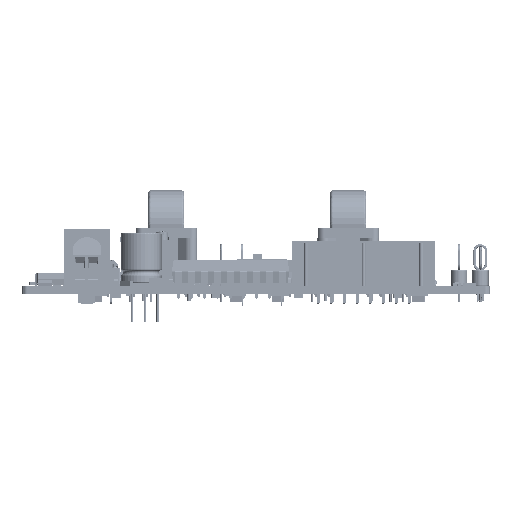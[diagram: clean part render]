
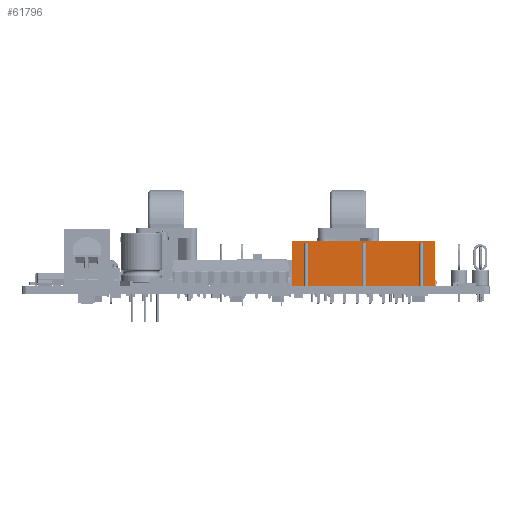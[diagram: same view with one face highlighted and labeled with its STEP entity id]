
A CAD part, left-side view. The second image highlights one B-rep face of the part: STEP entity #61796.
In plain terms, the highlighted planar face has unit normal (-1, 0, 0) as drawn and (0, 1, 0) by its records, which use the part's own axes.
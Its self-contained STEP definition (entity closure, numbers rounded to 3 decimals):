
#61759 = VERTEX_POINT('',#61760);
#61760 = CARTESIAN_POINT('',(-9.29,5.47,6.13));
#61778 = VERTEX_POINT('',#61779);
#61779 = CARTESIAN_POINT('',(-9.29,5.47,-2.27));
#61786 = EDGE_CURVE('',#61759,#61778,#61787,.T.);
#61787 = LINE('',#61788,#61789);
#61788 = CARTESIAN_POINT('',(-9.29,5.47,-2.27));
#61789 = VECTOR('',#61790,1.);
#61790 = DIRECTION('',(0.,0.,-1.));
#61796 = ADVANCED_FACE('',(#61797),#61918,.T.);
#61797 = FACE_BOUND('',#61798,.T.);
#61798 = EDGE_LOOP('',(#61799,#61800,#61808,#61816,#61824,#61832,#61840,
    #61848,#61856,#61864,#61872,#61880,#61888,#61896,#61904,#61912));
#61799 = ORIENTED_EDGE('',*,*,#61786,.T.);
#61800 = ORIENTED_EDGE('',*,*,#61801,.T.);
#61801 = EDGE_CURVE('',#61778,#61802,#61804,.T.);
#61802 = VERTEX_POINT('',#61803);
#61803 = CARTESIAN_POINT('',(-19.75,5.47,-2.27));
#61804 = LINE('',#61805,#61806);
#61805 = CARTESIAN_POINT('',(-22.85,5.47,-2.27));
#61806 = VECTOR('',#61807,1.);
#61807 = DIRECTION('',(-1.,0.,0.));
#61808 = ORIENTED_EDGE('',*,*,#61809,.T.);
#61809 = EDGE_CURVE('',#61802,#61810,#61812,.T.);
#61810 = VERTEX_POINT('',#61811);
#61811 = CARTESIAN_POINT('',(-19.75,5.47,6.13));
#61812 = LINE('',#61813,#61814);
#61813 = CARTESIAN_POINT('',(-19.75,5.47,-2.27));
#61814 = VECTOR('',#61815,1.);
#61815 = DIRECTION('',(0.,0.,1.));
#61816 = ORIENTED_EDGE('',*,*,#61817,.T.);
#61817 = EDGE_CURVE('',#61810,#61818,#61820,.T.);
#61818 = VERTEX_POINT('',#61819);
#61819 = CARTESIAN_POINT('',(-20.55,5.47,6.13));
#61820 = LINE('',#61821,#61822);
#61821 = CARTESIAN_POINT('',(-22.85,5.47,6.13));
#61822 = VECTOR('',#61823,1.);
#61823 = DIRECTION('',(-1.,0.,0.));
#61824 = ORIENTED_EDGE('',*,*,#61825,.T.);
#61825 = EDGE_CURVE('',#61818,#61826,#61828,.T.);
#61826 = VERTEX_POINT('',#61827);
#61827 = CARTESIAN_POINT('',(-20.55,5.47,-2.27));
#61828 = LINE('',#61829,#61830);
#61829 = CARTESIAN_POINT('',(-20.55,5.47,-2.27));
#61830 = VECTOR('',#61831,1.);
#61831 = DIRECTION('',(0.,0.,-1.));
#61832 = ORIENTED_EDGE('',*,*,#61833,.T.);
#61833 = EDGE_CURVE('',#61826,#61834,#61836,.T.);
#61834 = VERTEX_POINT('',#61835);
#61835 = CARTESIAN_POINT('',(-22.85,5.47,-2.27));
#61836 = LINE('',#61837,#61838);
#61837 = CARTESIAN_POINT('',(-22.85,5.47,-2.27));
#61838 = VECTOR('',#61839,1.);
#61839 = DIRECTION('',(-1.,0.,0.));
#61840 = ORIENTED_EDGE('',*,*,#61841,.T.);
#61841 = EDGE_CURVE('',#61834,#61842,#61844,.T.);
#61842 = VERTEX_POINT('',#61843);
#61843 = CARTESIAN_POINT('',(-22.85,5.47,6.63));
#61844 = LINE('',#61845,#61846);
#61845 = CARTESIAN_POINT('',(-22.85,5.47,-2.27));
#61846 = VECTOR('',#61847,1.);
#61847 = DIRECTION('',(0.,0.,1.));
#61848 = ORIENTED_EDGE('',*,*,#61849,.T.);
#61849 = EDGE_CURVE('',#61842,#61850,#61852,.T.);
#61850 = VERTEX_POINT('',#61851);
#61851 = CARTESIAN_POINT('',(5.07,5.47,6.63));
#61852 = LINE('',#61853,#61854);
#61853 = CARTESIAN_POINT('',(-22.85,5.47,6.63));
#61854 = VECTOR('',#61855,1.);
#61855 = DIRECTION('',(1.,0.,0.));
#61856 = ORIENTED_EDGE('',*,*,#61857,.T.);
#61857 = EDGE_CURVE('',#61850,#61858,#61860,.T.);
#61858 = VERTEX_POINT('',#61859);
#61859 = CARTESIAN_POINT('',(5.07,5.47,-2.27));
#61860 = LINE('',#61861,#61862);
#61861 = CARTESIAN_POINT('',(5.07,5.47,-2.27));
#61862 = VECTOR('',#61863,1.);
#61863 = DIRECTION('',(0.,0.,-1.));
#61864 = ORIENTED_EDGE('',*,*,#61865,.T.);
#61865 = EDGE_CURVE('',#61858,#61866,#61868,.T.);
#61866 = VERTEX_POINT('',#61867);
#61867 = CARTESIAN_POINT('',(2.77,5.47,-2.27));
#61868 = LINE('',#61869,#61870);
#61869 = CARTESIAN_POINT('',(-22.85,5.47,-2.27));
#61870 = VECTOR('',#61871,1.);
#61871 = DIRECTION('',(-1.,0.,0.));
#61872 = ORIENTED_EDGE('',*,*,#61873,.T.);
#61873 = EDGE_CURVE('',#61866,#61874,#61876,.T.);
#61874 = VERTEX_POINT('',#61875);
#61875 = CARTESIAN_POINT('',(2.77,5.47,6.13));
#61876 = LINE('',#61877,#61878);
#61877 = CARTESIAN_POINT('',(2.77,5.47,-2.27));
#61878 = VECTOR('',#61879,1.);
#61879 = DIRECTION('',(0.,0.,1.));
#61880 = ORIENTED_EDGE('',*,*,#61881,.T.);
#61881 = EDGE_CURVE('',#61874,#61882,#61884,.T.);
#61882 = VERTEX_POINT('',#61883);
#61883 = CARTESIAN_POINT('',(1.97,5.47,6.13));
#61884 = LINE('',#61885,#61886);
#61885 = CARTESIAN_POINT('',(-22.85,5.47,6.13));
#61886 = VECTOR('',#61887,1.);
#61887 = DIRECTION('',(-1.,0.,0.));
#61888 = ORIENTED_EDGE('',*,*,#61889,.T.);
#61889 = EDGE_CURVE('',#61882,#61890,#61892,.T.);
#61890 = VERTEX_POINT('',#61891);
#61891 = CARTESIAN_POINT('',(1.97,5.47,-2.27));
#61892 = LINE('',#61893,#61894);
#61893 = CARTESIAN_POINT('',(1.97,5.47,-2.27));
#61894 = VECTOR('',#61895,1.);
#61895 = DIRECTION('',(0.,0.,-1.));
#61896 = ORIENTED_EDGE('',*,*,#61897,.T.);
#61897 = EDGE_CURVE('',#61890,#61898,#61900,.T.);
#61898 = VERTEX_POINT('',#61899);
#61899 = CARTESIAN_POINT('',(-8.49,5.47,-2.27));
#61900 = LINE('',#61901,#61902);
#61901 = CARTESIAN_POINT('',(-22.85,5.47,-2.27));
#61902 = VECTOR('',#61903,1.);
#61903 = DIRECTION('',(-1.,0.,0.));
#61904 = ORIENTED_EDGE('',*,*,#61905,.T.);
#61905 = EDGE_CURVE('',#61898,#61906,#61908,.T.);
#61906 = VERTEX_POINT('',#61907);
#61907 = CARTESIAN_POINT('',(-8.49,5.47,6.13));
#61908 = LINE('',#61909,#61910);
#61909 = CARTESIAN_POINT('',(-8.49,5.47,-2.27));
#61910 = VECTOR('',#61911,1.);
#61911 = DIRECTION('',(0.,0.,1.));
#61912 = ORIENTED_EDGE('',*,*,#61913,.T.);
#61913 = EDGE_CURVE('',#61906,#61759,#61914,.T.);
#61914 = LINE('',#61915,#61916);
#61915 = CARTESIAN_POINT('',(-22.85,5.47,6.13));
#61916 = VECTOR('',#61917,1.);
#61917 = DIRECTION('',(-1.,0.,0.));
#61918 = PLANE('',#61919);
#61919 = AXIS2_PLACEMENT_3D('',#61920,#61921,#61922);
#61920 = CARTESIAN_POINT('',(-22.85,5.47,-2.27));
#61921 = DIRECTION('',(0.,1.,0.));
#61922 = DIRECTION('',(0.,0.,1.));
